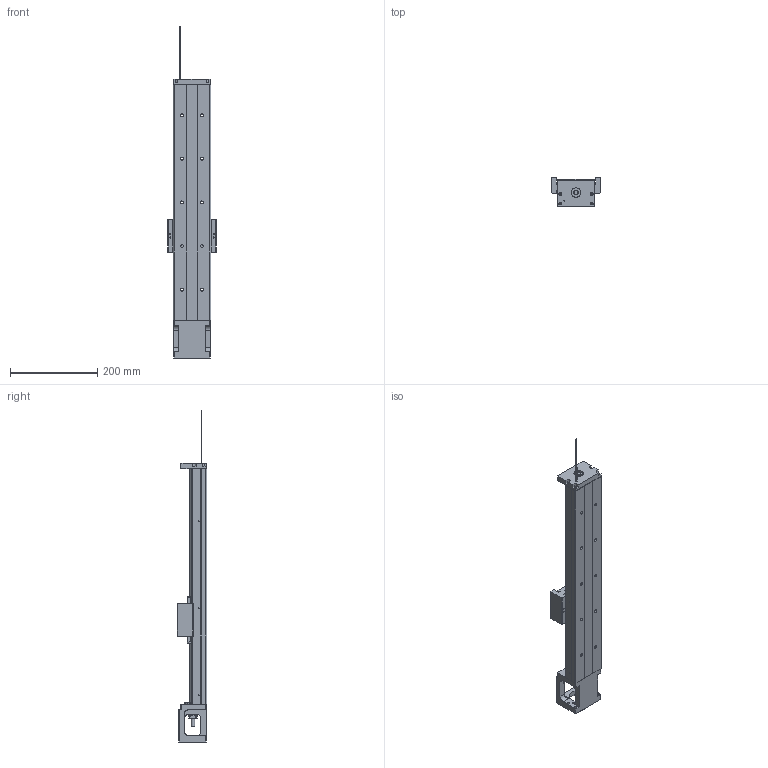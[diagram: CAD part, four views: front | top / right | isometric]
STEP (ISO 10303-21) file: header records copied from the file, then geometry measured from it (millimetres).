
FILE_DESCRIPTION(/* description */ (''),/* implementation_level */ '2;1');
FILE_NAME(/* name */ '46L-540.stp',/* time_stamp */ '2016-12-20T13:57:08+08:00',/* author */ (''),/* organization */ (''),/* preprocessor_version */ 'ST-DEVELOPER v11',/* originating_system */ 'SIEMENS UGS NX 6.0',/* authorisation */ '');
FILE_SCHEMA (('AUTOMOTIVE_DESIGN { 1 0 10303 214 1 1 1 1 }'));
Length unit declared in the file: millimetre
Products named in the file (1): model4
Bounding box: 112 x 68 x 761.89 mm (x, y, z)
Volume: 1519384 mm3; surface area: 321053.1 mm2
Topology: 6 solids, 14 shells, 678 faces, 1765 edges, 1159 vertices
Faces by surface type: plane 327, cylinder 239, cone 57, bspline 47, torus 8
Full cylindrical faces by diameter (mm): 2.11 x4, 2.15 x6, 2.42 x8, 2.5 x4, 3 x6, 3.2 x4, 3.3 x12, 3.4 x8, 4.2 x4, 4.5 x8, 5 x14, 6 x8, 6.35 x2, 6.6 x10, 8 x1, 9.6 x1, 10 x3, 11 x10, 12 x1, 14.95 x2, 15 x1, 16 x2, 22 x3, 27.5 x1, 44 x1, 50 x1
Entity records: 30869 total; most frequent: CARTESIAN_POINT 12848, ORIENTED_EDGE 3042, DIRECTION 2972, EDGE_CURVE 1521, VERTEX_POINT 1089, AXIS2_PLACEMENT_3D 1089, EDGE_LOOP 954, LINE 794
